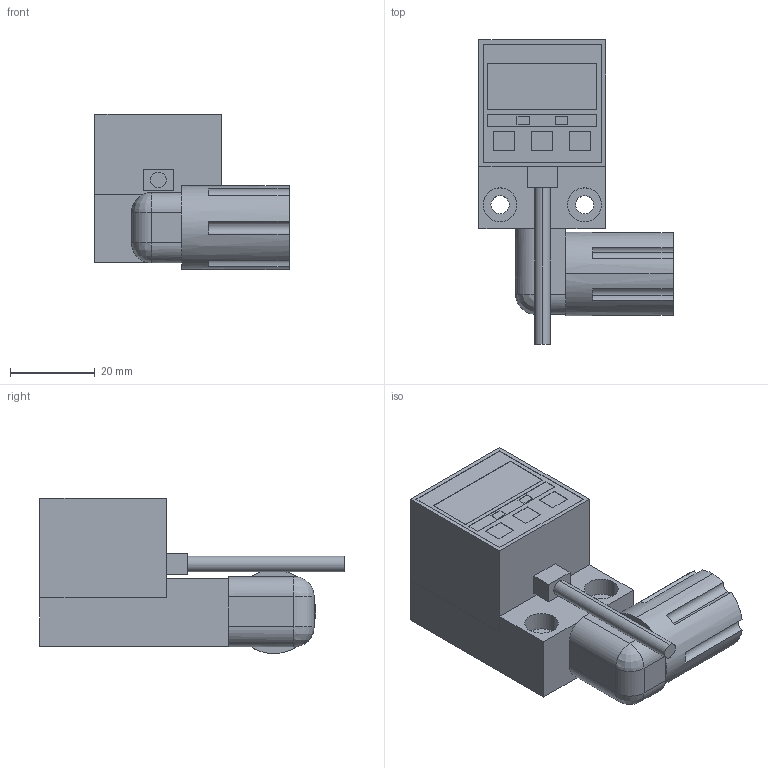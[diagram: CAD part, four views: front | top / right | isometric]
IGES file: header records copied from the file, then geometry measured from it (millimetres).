
Start section: SolidWorks IGES file using analytic representation for surfaces
Global section: file name: S:\Product Visuals\Defeatured Models and Parts Library\Parts Library IGES & STEP\Control and Monitoring\Stroke Detection\Single Pressure Switch\pressure-switch-assembly.IGS; native system: SolidWorks 2012; preprocessor: SolidWorks 2012; author: rachel.dressel; date: 121025.134642; units: inch
Bounding box: 45.94 x 72 x 36.71 mm (x, y, z)
Volume: 49023.7 mm3; surface area: 11363.3 mm2
Topology: 1 solids, 1 shells, 109 faces, 266 edges, 170 vertices
Faces by surface type: plane 80, revolution 29
